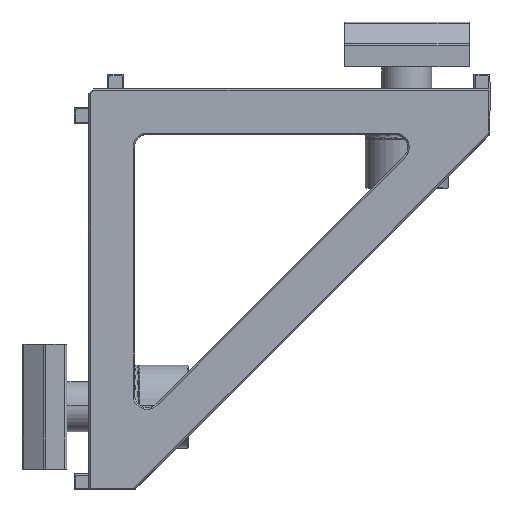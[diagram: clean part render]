
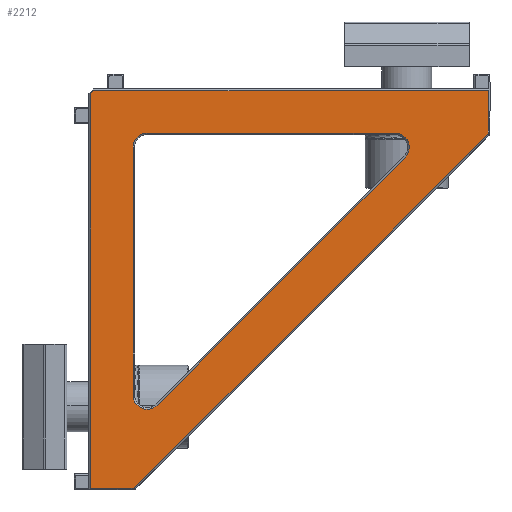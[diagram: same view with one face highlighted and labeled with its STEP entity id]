
A CAD part, front view. The second image highlights one B-rep face of the part: STEP entity #2212.
In plain terms, the highlighted planar face has unit normal (0, -1, 0).
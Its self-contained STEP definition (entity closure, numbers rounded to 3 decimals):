
#97 = VERTEX_POINT ( 'NONE', #2792 ) ;
#181 = CARTESIAN_POINT ( 'NONE',  ( 0., 0., 0. ) ) ;
#186 = EDGE_CURVE ( 'NONE', #97, #6163, #9668, .T. ) ;
#214 = ORIENTED_EDGE ( 'NONE', *, *, #10647, .T. ) ;
#241 = EDGE_CURVE ( 'NONE', #13212, #2135, #12542, .T. ) ;
#248 = EDGE_CURVE ( 'NONE', #11569, #4809, #10475, .T. ) ;
#459 = ORIENTED_EDGE ( 'NONE', *, *, #13026, .T. ) ;
#678 = CARTESIAN_POINT ( 'NONE',  ( 49.8, 0., -7.093 ) ) ;
#758 = ORIENTED_EDGE ( 'NONE', *, *, #186, .T. ) ;
#761 = VERTEX_POINT ( 'NONE', #3921 ) ;
#861 = DIRECTION ( 'NONE',  ( 0., 0., 1. ) ) ;
#871 = CARTESIAN_POINT ( 'NONE',  ( 7.093, 0., -49.5 ) ) ;
#1010 = DIRECTION ( 'NONE',  ( 0., 0., 1. ) ) ;
#1062 = LINE ( 'NONE', #2399, #9775 ) ;
#1101 = EDGE_CURVE ( 'NONE', #13188, #5659, #8507, .T. ) ;
#1313 = VERTEX_POINT ( 'NONE', #2355 ) ;
#1392 = VECTOR ( 'NONE', #4324, 1000. ) ;
#1417 = PLANE ( 'NONE',  #3020 ) ;
#1951 = CARTESIAN_POINT ( 'NONE',  ( 10.002, 0., -39.803 ) ) ;
#2032 = CARTESIAN_POINT ( 'NONE',  ( 49.8, 0., 0. ) ) ;
#2060 = AXIS2_PLACEMENT_3D ( 'NONE', #8262, #12488, #3022 ) ;
#2135 = VERTEX_POINT ( 'NONE', #11383 ) ;
#2212 = ADVANCED_FACE ( 'NONE', ( #3553, #6536 ), #1417, .F. ) ;
#2241 = LINE ( 'NONE', #10618, #12644 ) ;
#2355 = CARTESIAN_POINT ( 'NONE',  ( 38.601, 0., -7.1 ) ) ;
#2399 = CARTESIAN_POINT ( 'NONE',  ( 49.712, 0., -7.305 ) ) ;
#2471 = CARTESIAN_POINT ( 'NONE',  ( 7.305, 0., -49.712 ) ) ;
#2607 = CARTESIAN_POINT ( 'NONE',  ( 7.1, 0., -8.8 ) ) ;
#2616 = ORIENTED_EDGE ( 'NONE', *, *, #6651, .T. ) ;
#2792 = CARTESIAN_POINT ( 'NONE',  ( 7.093, 0., -49.8 ) ) ;
#3020 = AXIS2_PLACEMENT_3D ( 'NONE', #181, #12826, #4448 ) ;
#3022 = DIRECTION ( 'NONE',  ( 0., 0., 1. ) ) ;
#3059 = ORIENTED_EDGE ( 'NONE', *, *, #241, .T. ) ;
#3277 = DIRECTION ( 'NONE',  ( 0., 0., 1. ) ) ;
#3335 = DIRECTION ( 'NONE',  ( 0., 1., 0. ) ) ;
#3553 = FACE_OUTER_BOUND ( 'NONE', #4976, .T. ) ;
#3561 = ORIENTED_EDGE ( 'NONE', *, *, #5473, .T. ) ;
#3568 = CARTESIAN_POINT ( 'NONE',  ( 38.601, 0., -7.1 ) ) ;
#3901 = CARTESIAN_POINT ( 'NONE',  ( 2.383, 0., -2. ) ) ;
#3921 = CARTESIAN_POINT ( 'NONE',  ( 8.8, 0., -40.301 ) ) ;
#4030 = CIRCLE ( 'NONE', #2060, 0.3 ) ;
#4123 = CARTESIAN_POINT ( 'NONE',  ( 49.712, 0., -7.305 ) ) ;
#4135 = VECTOR ( 'NONE', #1010, 1000. ) ;
#4169 = DIRECTION ( 'NONE',  ( 0., 0., 1. ) ) ;
#4324 = DIRECTION ( 'NONE',  ( -1., 0., 0. ) ) ;
#4358 = CARTESIAN_POINT ( 'NONE',  ( 7.1, 0., -8.8 ) ) ;
#4448 = DIRECTION ( 'NONE',  ( 0., 0., 1. ) ) ;
#4460 = CARTESIAN_POINT ( 'NONE',  ( 8.8, 0., -8.8 ) ) ;
#4471 = VECTOR ( 'NONE', #12004, 1000. ) ;
#4587 = CARTESIAN_POINT ( 'NONE',  ( 49.8, 0., -2. ) ) ;
#4809 = VERTEX_POINT ( 'NONE', #4587 ) ;
#4964 = CARTESIAN_POINT ( 'NONE',  ( 8.8, 0., -7.1 ) ) ;
#4976 = EDGE_LOOP ( 'NONE', ( #9311, #13236, #2616, #7236, #3059, #10957, #758, #12479 ) ) ;
#5002 = EDGE_CURVE ( 'NONE', #11757, #13212, #2241, .T. ) ;
#5072 = DIRECTION ( 'NONE',  ( 0., -1., 0. ) ) ;
#5222 = CARTESIAN_POINT ( 'NONE',  ( 7.1, 0., -38.601 ) ) ;
#5357 = CARTESIAN_POINT ( 'NONE',  ( 0., 0., -2. ) ) ;
#5465 = VECTOR ( 'NONE', #13575, 1000. ) ;
#5473 = EDGE_CURVE ( 'NONE', #761, #11752, #10438, .T. ) ;
#5659 = VERTEX_POINT ( 'NONE', #8570 ) ;
#6163 = VERTEX_POINT ( 'NONE', #2471 ) ;
#6168 = VECTOR ( 'NONE', #10537, 1000. ) ;
#6383 = CARTESIAN_POINT ( 'NONE',  ( 8.8, 0., -38.601 ) ) ;
#6514 = EDGE_CURVE ( 'NONE', #11242, #11569, #4030, .T. ) ;
#6536 = FACE_BOUND ( 'NONE', #9878, .T. ) ;
#6571 = CIRCLE ( 'NONE', #7851, 1.7 ) ;
#6651 = EDGE_CURVE ( 'NONE', #4809, #11757, #12893, .T. ) ;
#7236 = ORIENTED_EDGE ( 'NONE', *, *, #5002, .T. ) ;
#7420 = CARTESIAN_POINT ( 'NONE',  ( 8.8, 0., -38.601 ) ) ;
#7512 = LINE ( 'NONE', #9789, #10841 ) ;
#7514 = DIRECTION ( 'NONE',  ( 0., 1., 0. ) ) ;
#7539 = ORIENTED_EDGE ( 'NONE', *, *, #12888, .T. ) ;
#7577 = DIRECTION ( 'NONE',  ( 1., 0., 0. ) ) ;
#7635 = VERTEX_POINT ( 'NONE', #4358 ) ;
#7644 = DIRECTION ( 'NONE',  ( 0.707, 0., 0.707 ) ) ;
#7777 = DIRECTION ( 'NONE',  ( 0., 0., 1. ) ) ;
#7778 = LINE ( 'NONE', #3568, #4471 ) ;
#7851 = AXIS2_PLACEMENT_3D ( 'NONE', #7420, #3335, #3277 ) ;
#7875 = CIRCLE ( 'NONE', #7886, 1.7 ) ;
#7886 = AXIS2_PLACEMENT_3D ( 'NONE', #12540, #10610, #4169 ) ;
#7957 = VECTOR ( 'NONE', #7777, 1000. ) ;
#8262 = CARTESIAN_POINT ( 'NONE',  ( 49.5, 0., -7.093 ) ) ;
#8379 = CARTESIAN_POINT ( 'NONE',  ( 39.803, 0., -10.002 ) ) ;
#8507 = LINE ( 'NONE', #1951, #6168 ) ;
#8570 = CARTESIAN_POINT ( 'NONE',  ( 10.002, 0., -39.803 ) ) ;
#8689 = EDGE_CURVE ( 'NONE', #1313, #13188, #7875, .T. ) ;
#9064 = ORIENTED_EDGE ( 'NONE', *, *, #13320, .T. ) ;
#9089 = ORIENTED_EDGE ( 'NONE', *, *, #8689, .T. ) ;
#9311 = ORIENTED_EDGE ( 'NONE', *, *, #6514, .T. ) ;
#9668 = CIRCLE ( 'NONE', #10336, 0.3 ) ;
#9721 = DIRECTION ( 'NONE',  ( 0., 0., 1. ) ) ;
#9775 = VECTOR ( 'NONE', #7644, 1000. ) ;
#9789 = CARTESIAN_POINT ( 'NONE',  ( 0., 0., -49.8 ) ) ;
#9878 = EDGE_LOOP ( 'NONE', ( #459, #7539, #9064, #9089, #12622, #214, #3561 ) ) ;
#10002 = LINE ( 'NONE', #2607, #7957 ) ;
#10336 = AXIS2_PLACEMENT_3D ( 'NONE', #871, #5072, #12326 ) ;
#10438 = CIRCLE ( 'NONE', #13308, 1.7 ) ;
#10475 = LINE ( 'NONE', #2032, #4135 ) ;
#10537 = DIRECTION ( 'NONE',  ( -0.707, 0., -0.707 ) ) ;
#10610 = DIRECTION ( 'NONE',  ( 0., 1., 0. ) ) ;
#10618 = CARTESIAN_POINT ( 'NONE',  ( 1.941, 0., -2.441 ) ) ;
#10647 = EDGE_CURVE ( 'NONE', #5659, #761, #6571, .T. ) ;
#10841 = VECTOR ( 'NONE', #7577, 1000. ) ;
#10957 = ORIENTED_EDGE ( 'NONE', *, *, #11385, .T. ) ;
#11216 = CARTESIAN_POINT ( 'NONE',  ( 2., 0., -2.383 ) ) ;
#11242 = VERTEX_POINT ( 'NONE', #4123 ) ;
#11383 = CARTESIAN_POINT ( 'NONE',  ( 2., 0., -49.8 ) ) ;
#11385 = EDGE_CURVE ( 'NONE', #2135, #97, #7512, .T. ) ;
#11500 = CARTESIAN_POINT ( 'NONE',  ( 2., 0., 0. ) ) ;
#11503 = AXIS2_PLACEMENT_3D ( 'NONE', #4460, #7514, #9721 ) ;
#11511 = DIRECTION ( 'NONE',  ( -0.707, 0., -0.707 ) ) ;
#11569 = VERTEX_POINT ( 'NONE', #678 ) ;
#11752 = VERTEX_POINT ( 'NONE', #5222 ) ;
#11757 = VERTEX_POINT ( 'NONE', #3901 ) ;
#11930 = CIRCLE ( 'NONE', #11503, 1.7 ) ;
#12004 = DIRECTION ( 'NONE',  ( 1., 0., 0. ) ) ;
#12326 = DIRECTION ( 'NONE',  ( 0., 0., 1. ) ) ;
#12458 = DIRECTION ( 'NONE',  ( 0., 1., 0. ) ) ;
#12479 = ORIENTED_EDGE ( 'NONE', *, *, #13324, .T. ) ;
#12488 = DIRECTION ( 'NONE',  ( 0., -1., 0. ) ) ;
#12540 = CARTESIAN_POINT ( 'NONE',  ( 38.601, 0., -8.8 ) ) ;
#12542 = LINE ( 'NONE', #11500, #5465 ) ;
#12579 = VERTEX_POINT ( 'NONE', #4964 ) ;
#12622 = ORIENTED_EDGE ( 'NONE', *, *, #1101, .T. ) ;
#12644 = VECTOR ( 'NONE', #11511, 1000. ) ;
#12826 = DIRECTION ( 'NONE',  ( 0., 1., 0. ) ) ;
#12888 = EDGE_CURVE ( 'NONE', #7635, #12579, #11930, .T. ) ;
#12893 = LINE ( 'NONE', #5357, #1392 ) ;
#13026 = EDGE_CURVE ( 'NONE', #11752, #7635, #10002, .T. ) ;
#13188 = VERTEX_POINT ( 'NONE', #8379 ) ;
#13212 = VERTEX_POINT ( 'NONE', #11216 ) ;
#13236 = ORIENTED_EDGE ( 'NONE', *, *, #248, .T. ) ;
#13308 = AXIS2_PLACEMENT_3D ( 'NONE', #6383, #12458, #861 ) ;
#13320 = EDGE_CURVE ( 'NONE', #12579, #1313, #7778, .T. ) ;
#13324 = EDGE_CURVE ( 'NONE', #6163, #11242, #1062, .T. ) ;
#13575 = DIRECTION ( 'NONE',  ( 0., 0., -1. ) ) ;
